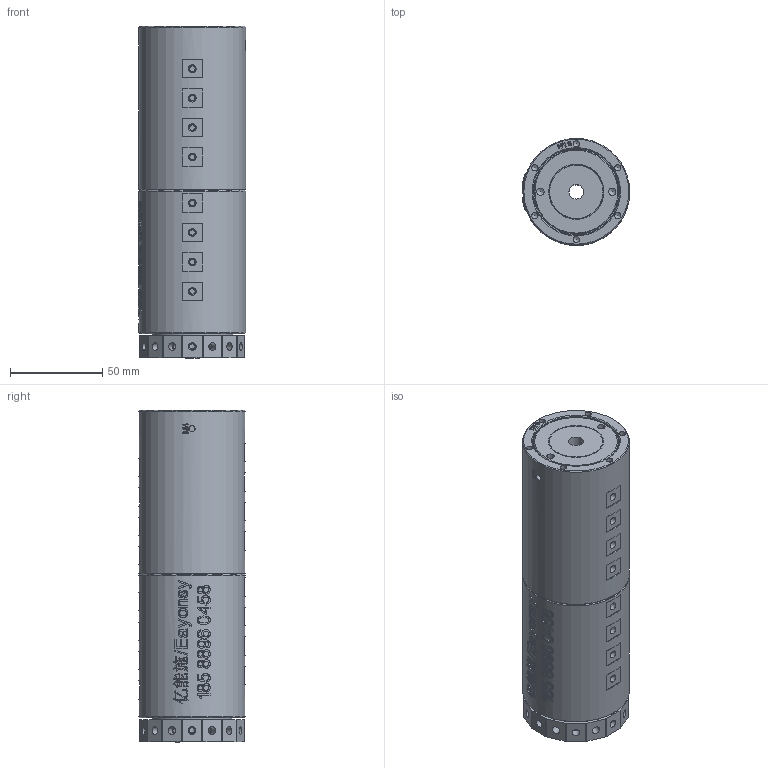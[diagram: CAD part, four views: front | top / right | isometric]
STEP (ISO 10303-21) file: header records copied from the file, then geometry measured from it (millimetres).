
FILE_DESCRIPTION(/* description */ (''),/* implementation_level */ '2;1');
FILE_NAME(/* name */ 'YQ16005-3D模型.stp',/* time_stamp */ '2025-09-05T17:56:28+08:00',/* author */ (''),/* organization */ (''),/* preprocessor_version */ 'ST-DEVELOPER v16.7',/* originating_system */ 'SIEMENS PLM Software NX 12.0',/* authorisation */ '');
FILE_SCHEMA (('AUTOMOTIVE_DESIGN { 1 0 10303 214 3 1 1 1 }'));
Products named in the file (1): AdmiE6DC186D3sdg
Bounding box: 58.64 x 58 x 180.4 mm (x, y, z)
Volume: 456440.1 mm3; surface area: 54659.3 mm2
Topology: 1 solids, 1 shells, 1461 faces, 3764 edges, 2525 vertices
Faces by surface type: extrusion 596, plane 564, cylinder 214, bspline 51, cone 36
Full cylindrical faces by diameter (mm): 3 x48, 3.3 x2, 3.4 x6, 4 x2, 4.1 x32, 4.2 x68, 8 x1, 44 x1, 46 x1, 47 x1, 58 x2
Entity records: 53560 total; most frequent: CARTESIAN_POINT 23715, ORIENTED_EDGE 6870, DIRECTION 3837, EDGE_CURVE 3435, B_SPLINE_CURVE_WITH_KNOTS 2952, VERTEX_POINT 2414, EDGE_LOOP 1889, ADVANCED_FACE 1461
